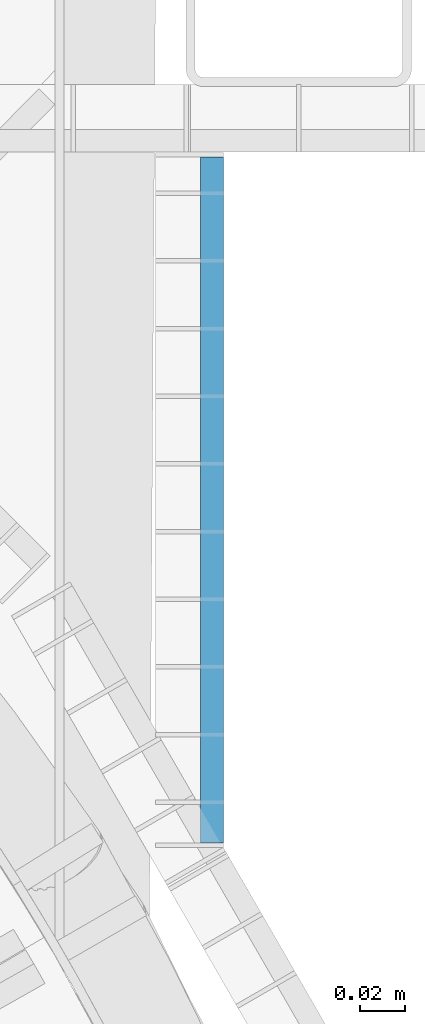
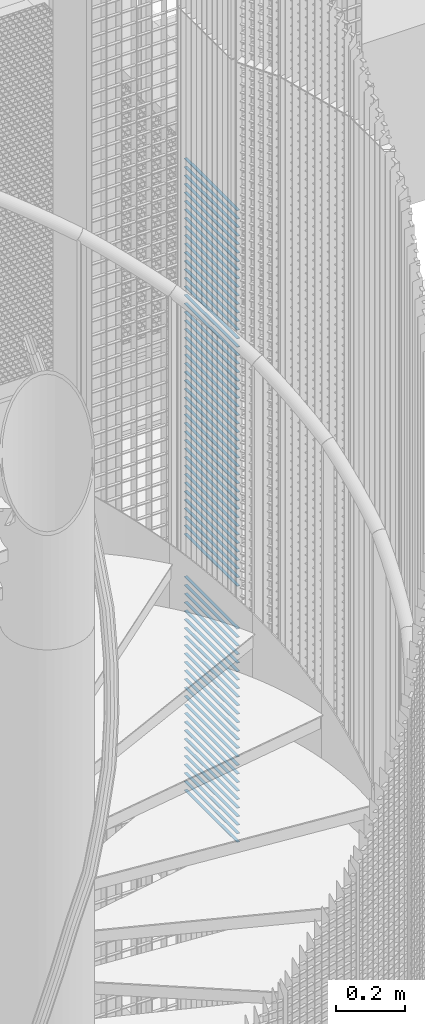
# One storey, part 279 of 1183: 71 beams, 1 element without a shape of its own.
"""IFC2X3 building model written with IfcOpenShell, lengths in millimetres."""

from ifc_helpers import new_model, si_unit, frame, origin_with_axes, origin_2d_with_axis, place, context, subcontext, project, spatial, rectangle, extrude, material, type_object, element, aggregate, save


model = new_model("IFC2X3")

# Units and contexts
model_context = context("Model", 3, precision=1e-05, world=origin_with_axes())
body_context = subcontext(model_context, "Body", "Model", "MODEL_VIEW")
ifc_project = project(units=[si_unit("LENGTHUNIT", "METRE", prefix="MILLI"), si_unit("AREAUNIT", "SQUARE_METRE"), si_unit("VOLUMEUNIT", "CUBIC_METRE"), si_unit("MASSUNIT", "GRAM", prefix="KILO"), si_unit("TIMEUNIT", "SECOND"), si_unit("PLANEANGLEUNIT", "RADIAN"), si_unit("SOLIDANGLEUNIT", "STERADIAN"), si_unit("THERMODYNAMICTEMPERATUREUNIT", "DEGREE_CELSIUS"), si_unit("LUMINOUSINTENSITYUNIT", "LUMEN")], contexts=[model_context])

# Site, building, storey
site_placement = place(None, origin_with_axes())
site = spatial("IfcSite", under=ifc_project, at=site_placement, Name="Undefined", CompositionType="ELEMENT")
building_placement = place(site_placement, origin_with_axes())
building = spatial("IfcBuilding", under=site, at=building_placement, Name="Undefined", CompositionType="ELEMENT")
storey_placement = place(building_placement, origin_with_axes())
storey = spatial("IfcBuildingStorey", under=building, at=storey_placement, Name="Undefined", CompositionType="ELEMENT", Elevation=0.0)

# Assembly, beams
assembly_placement = place(storey_placement, origin_with_axes())
assembly = element("IfcElementAssembly", 1, at=assembly_placement, inside=storey, Name="BORDURE", AssemblyPlace="NOTDEFINED", PredefinedType="NOTDEFINED")
ifc_material = material(Name="STEEL/S235JR")
beam_type = type_object("IfcBeamType", Name="PL2*10", PredefinedType="NOTDEFINED")
beam_1_placement = place(assembly_placement, frame((961.586915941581, 564.782669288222, 14460.0), z_axis=(1.0, 0.0, 0.0), x_axis=(0.0, 1.0, 0.0)))
beam_1 = element("IfcBeam", 2, at=beam_1_placement, type_object=beam_type, material=ifc_material, Name="ENTRETOISE", context=body_context, shape_type="SweptSolid", body=[
    extrude(rectangle(XDim=2.0, YDim=10.0, at=origin_2d_with_axis()), frame((303.999999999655, 0.0, 0.0), z_axis=(-1.0, 0.0, 0.0), x_axis=(0.0, -1.0, 0.0)), (0.0, 0.0, 1.0), 304.0),
])
beam_2_placement = place(assembly_placement, frame((961.586915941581, 564.782669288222, 14430.0), z_axis=(1.0, 0.0, 0.0), x_axis=(0.0, 1.0, 0.0)))
beam_2 = element("IfcBeam", 3, at=beam_2_placement, type_object=beam_type, material=ifc_material, Name="ENTRETOISE", context=body_context, shape_type="SweptSolid", body=[
    extrude(rectangle(XDim=2.0, YDim=10.0, at=origin_2d_with_axis()), frame((303.999999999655, 0.0, 0.0), z_axis=(-1.0, 0.0, 0.0), x_axis=(0.0, -1.0, 0.0)), (0.0, 0.0, 1.0), 304.0),
])
beam_3_placement = place(assembly_placement, frame((961.586915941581, 564.782669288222, 14400.0), z_axis=(1.0, 0.0, 0.0), x_axis=(0.0, 1.0, 0.0)))
beam_3 = element("IfcBeam", 4, at=beam_3_placement, type_object=beam_type, material=ifc_material, Name="ENTRETOISE", context=body_context, shape_type="SweptSolid", body=[
    extrude(rectangle(XDim=2.0, YDim=10.0, at=origin_2d_with_axis()), frame((303.999999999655, 0.0, 0.0), z_axis=(-1.0, 0.0, 0.0), x_axis=(0.0, -1.0, 0.0)), (0.0, 0.0, 1.0), 304.0),
])
beam_4_placement = place(assembly_placement, frame((961.586915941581, 564.782669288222, 14370.0), z_axis=(1.0, 0.0, 0.0), x_axis=(0.0, 1.0, 0.0)))
beam_4 = element("IfcBeam", 5, at=beam_4_placement, type_object=beam_type, material=ifc_material, Name="ENTRETOISE", context=body_context, shape_type="SweptSolid", body=[
    extrude(rectangle(XDim=2.0, YDim=10.0, at=origin_2d_with_axis()), frame((303.999999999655, 0.0, 0.0), z_axis=(-1.0, 0.0, 0.0), x_axis=(0.0, -1.0, 0.0)), (0.0, 0.0, 1.0), 304.0),
])
beam_5_placement = place(assembly_placement, frame((961.586915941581, 564.782669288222, 14340.0), z_axis=(1.0, 0.0, 0.0), x_axis=(0.0, 1.0, 0.0)))
beam_5 = element("IfcBeam", 6, at=beam_5_placement, type_object=beam_type, material=ifc_material, Name="ENTRETOISE", context=body_context, shape_type="SweptSolid", body=[
    extrude(rectangle(XDim=2.0, YDim=10.0, at=origin_2d_with_axis()), frame((303.999999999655, 0.0, 0.0), z_axis=(-1.0, 0.0, 0.0), x_axis=(0.0, -1.0, 0.0)), (0.0, 0.0, 1.0), 304.0),
])
beam_6_placement = place(assembly_placement, frame((961.586915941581, 564.782669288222, 14310.0), z_axis=(1.0, 0.0, 0.0), x_axis=(0.0, 1.0, 0.0)))
beam_6 = element("IfcBeam", 7, at=beam_6_placement, type_object=beam_type, material=ifc_material, Name="ENTRETOISE", context=body_context, shape_type="SweptSolid", body=[
    extrude(rectangle(XDim=2.0, YDim=10.0, at=origin_2d_with_axis()), frame((303.999999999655, 0.0, 0.0), z_axis=(-1.0, 0.0, 0.0), x_axis=(0.0, -1.0, 0.0)), (0.0, 0.0, 1.0), 304.0),
])
beam_7_placement = place(assembly_placement, frame((961.586915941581, 564.782669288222, 14280.0), z_axis=(1.0, 0.0, 0.0), x_axis=(0.0, 1.0, 0.0)))
beam_7 = element("IfcBeam", 8, at=beam_7_placement, type_object=beam_type, material=ifc_material, Name="ENTRETOISE", context=body_context, shape_type="SweptSolid", body=[
    extrude(rectangle(XDim=2.0, YDim=10.0, at=origin_2d_with_axis()), frame((303.999999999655, 0.0, 0.0), z_axis=(-1.0, 0.0, 0.0), x_axis=(0.0, -1.0, 0.0)), (0.0, 0.0, 1.0), 304.0),
])
beam_8_placement = place(assembly_placement, frame((961.586915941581, 564.782669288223, 14250.0), z_axis=(1.0, 0.0, 0.0), x_axis=(0.0, 1.0, 0.0)))
beam_8 = element("IfcBeam", 9, at=beam_8_placement, type_object=beam_type, material=ifc_material, Name="ENTRETOISE", context=body_context, shape_type="SweptSolid", body=[
    extrude(rectangle(XDim=2.0, YDim=10.0, at=origin_2d_with_axis()), frame((303.999999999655, 0.0, 0.0), z_axis=(-1.0, 0.0, 0.0), x_axis=(0.0, -1.0, 0.0)), (0.0, 0.0, 1.0), 304.0),
])
beam_9_placement = place(assembly_placement, frame((961.586915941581, 564.782669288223, 14220.0), z_axis=(1.0, 0.0, 0.0), x_axis=(0.0, 1.0, 0.0)))
beam_9 = element("IfcBeam", 10, at=beam_9_placement, type_object=beam_type, material=ifc_material, Name="ENTRETOISE", context=body_context, shape_type="SweptSolid", body=[
    extrude(rectangle(XDim=2.0, YDim=10.0, at=origin_2d_with_axis()), frame((303.999999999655, 0.0, 0.0), z_axis=(-1.0, 0.0, 0.0), x_axis=(0.0, -1.0, 0.0)), (0.0, 0.0, 1.0), 304.0),
])
beam_10_placement = place(assembly_placement, frame((961.586915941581, 564.782669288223, 14190.0), z_axis=(1.0, 0.0, 0.0), x_axis=(0.0, 1.0, 0.0)))
beam_10 = element("IfcBeam", 11, at=beam_10_placement, type_object=beam_type, material=ifc_material, Name="ENTRETOISE", context=body_context, shape_type="SweptSolid", body=[
    extrude(rectangle(XDim=2.0, YDim=10.0, at=origin_2d_with_axis()), frame((303.999999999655, 0.0, 0.0), z_axis=(-1.0, 0.0, 0.0), x_axis=(0.0, -1.0, 0.0)), (0.0, 0.0, 1.0), 304.0),
])
beam_11_placement = place(assembly_placement, frame((961.586915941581, 564.782669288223, 14160.0), z_axis=(1.0, 0.0, 0.0), x_axis=(0.0, 1.0, 0.0)))
beam_11 = element("IfcBeam", 12, at=beam_11_placement, type_object=beam_type, material=ifc_material, Name="ENTRETOISE", context=body_context, shape_type="SweptSolid", body=[
    extrude(rectangle(XDim=2.0, YDim=10.0, at=origin_2d_with_axis()), frame((303.999999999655, 0.0, 0.0), z_axis=(-1.0, 0.0, 0.0), x_axis=(0.0, -1.0, 0.0)), (0.0, 0.0, 1.0), 304.0),
])
beam_12_placement = place(assembly_placement, frame((961.586915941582, 564.782669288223, 14130.0), z_axis=(1.0, 0.0, 0.0), x_axis=(0.0, 1.0, 0.0)))
beam_12 = element("IfcBeam", 13, at=beam_12_placement, type_object=beam_type, material=ifc_material, Name="ENTRETOISE", context=body_context, shape_type="SweptSolid", body=[
    extrude(rectangle(XDim=2.0, YDim=10.0, at=origin_2d_with_axis()), frame((303.999999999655, 0.0, 0.0), z_axis=(-1.0, 0.0, 0.0), x_axis=(0.0, -1.0, 0.0)), (0.0, 0.0, 1.0), 304.0),
])
beam_13_placement = place(assembly_placement, frame((961.586915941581, 564.782669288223, 14100.0), z_axis=(1.0, 0.0, 0.0), x_axis=(0.0, 1.0, 0.0)))
beam_13 = element("IfcBeam", 14, at=beam_13_placement, type_object=beam_type, material=ifc_material, Name="ENTRETOISE", context=body_context, shape_type="SweptSolid", body=[
    extrude(rectangle(XDim=2.0, YDim=10.0, at=origin_2d_with_axis()), frame((303.999999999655, 0.0, 0.0), z_axis=(-1.0, 0.0, 0.0), x_axis=(0.0, -1.0, 0.0)), (0.0, 0.0, 1.0), 304.0),
])
beam_14_placement = place(assembly_placement, frame((961.586915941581, 564.782669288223, 14070.0), z_axis=(1.0, 0.0, 0.0), x_axis=(0.0, 1.0, 0.0)))
beam_14 = element("IfcBeam", 15, at=beam_14_placement, type_object=beam_type, material=ifc_material, Name="ENTRETOISE", context=body_context, shape_type="SweptSolid", body=[
    extrude(rectangle(XDim=2.0, YDim=10.0, at=origin_2d_with_axis()), frame((303.999999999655, 0.0, 0.0), z_axis=(-1.0, 0.0, 0.0), x_axis=(0.0, -1.0, 0.0)), (0.0, 0.0, 1.0), 304.0),
])
beam_15_placement = place(assembly_placement, frame((961.586915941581, 564.782669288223, 14040.0), z_axis=(1.0, 0.0, 0.0), x_axis=(0.0, 1.0, 0.0)))
beam_15 = element("IfcBeam", 16, at=beam_15_placement, type_object=beam_type, material=ifc_material, Name="ENTRETOISE", context=body_context, shape_type="SweptSolid", body=[
    extrude(rectangle(XDim=2.0, YDim=10.0, at=origin_2d_with_axis()), frame((303.999999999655, 0.0, 0.0), z_axis=(-1.0, 0.0, 0.0), x_axis=(0.0, -1.0, 0.0)), (0.0, 0.0, 1.0), 304.0),
])
beam_16_placement = place(assembly_placement, frame((961.586915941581, 564.782669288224, 14010.0), z_axis=(1.0, 0.0, 0.0), x_axis=(0.0, 1.0, 0.0)))
beam_16 = element("IfcBeam", 17, at=beam_16_placement, type_object=beam_type, material=ifc_material, Name="ENTRETOISE", context=body_context, shape_type="SweptSolid", body=[
    extrude(rectangle(XDim=2.0, YDim=10.0, at=origin_2d_with_axis()), frame((303.999999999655, 0.0, 0.0), z_axis=(-1.0, 0.0, 0.0), x_axis=(0.0, -1.0, 0.0)), (0.0, 0.0, 1.0), 304.0),
])
beam_17_placement = place(assembly_placement, frame((961.586915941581, 564.782669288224, 13980.0), z_axis=(1.0, 0.0, 0.0), x_axis=(0.0, 1.0, 0.0)))
beam_17 = element("IfcBeam", 18, at=beam_17_placement, type_object=beam_type, material=ifc_material, Name="ENTRETOISE", context=body_context, shape_type="SweptSolid", body=[
    extrude(rectangle(XDim=2.0, YDim=10.0, at=origin_2d_with_axis()), frame((303.999999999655, 0.0, 0.0), z_axis=(-1.0, 0.0, 0.0), x_axis=(0.0, -1.0, 0.0)), (0.0, 0.0, 1.0), 304.0),
])
beam_18_placement = place(assembly_placement, frame((961.586915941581, 564.782669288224, 13950.0), z_axis=(1.0, 0.0, 0.0), x_axis=(0.0, 1.0, 0.0)))
beam_18 = element("IfcBeam", 19, at=beam_18_placement, type_object=beam_type, material=ifc_material, Name="ENTRETOISE", context=body_context, shape_type="SweptSolid", body=[
    extrude(rectangle(XDim=2.0, YDim=10.0, at=origin_2d_with_axis()), frame((303.999999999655, 0.0, 0.0), z_axis=(-1.0, 0.0, 0.0), x_axis=(0.0, -1.0, 0.0)), (0.0, 0.0, 1.0), 304.0),
])
beam_19_placement = place(assembly_placement, frame((961.586915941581, 564.782669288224, 13920.0), z_axis=(1.0, 0.0, 0.0), x_axis=(0.0, 1.0, 0.0)))
beam_19 = element("IfcBeam", 20, at=beam_19_placement, type_object=beam_type, material=ifc_material, Name="ENTRETOISE", context=body_context, shape_type="SweptSolid", body=[
    extrude(rectangle(XDim=2.0, YDim=10.0, at=origin_2d_with_axis()), frame((303.999999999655, 0.0, 0.0), z_axis=(-1.0, 0.0, 0.0), x_axis=(0.0, -1.0, 0.0)), (0.0, 0.0, 1.0), 304.0),
])
beam_20_placement = place(assembly_placement, frame((961.586915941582, 564.782669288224, 13890.0), z_axis=(1.0, 0.0, 0.0), x_axis=(0.0, 1.0, 0.0)))
beam_20 = element("IfcBeam", 21, at=beam_20_placement, type_object=beam_type, material=ifc_material, Name="ENTRETOISE", context=body_context, shape_type="SweptSolid", body=[
    extrude(rectangle(XDim=2.0, YDim=10.0, at=origin_2d_with_axis()), frame((303.999999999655, 0.0, 0.0), z_axis=(-1.0, 0.0, 0.0), x_axis=(0.0, -1.0, 0.0)), (0.0, 0.0, 1.0), 304.0),
])
beam_21_placement = place(assembly_placement, frame((961.586915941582, 564.782669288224, 13860.0), z_axis=(1.0, 0.0, 0.0), x_axis=(0.0, 1.0, 0.0)))
beam_21 = element("IfcBeam", 22, at=beam_21_placement, type_object=beam_type, material=ifc_material, Name="ENTRETOISE", context=body_context, shape_type="SweptSolid", body=[
    extrude(rectangle(XDim=2.0, YDim=10.0, at=origin_2d_with_axis()), frame((303.999999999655, 0.0, 0.0), z_axis=(-1.0, 0.0, 0.0), x_axis=(0.0, -1.0, 0.0)), (0.0, 0.0, 1.0), 304.0),
])
beam_22_placement = place(assembly_placement, frame((961.586915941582, 564.782669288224, 13830.0), z_axis=(1.0, 0.0, 0.0), x_axis=(0.0, 1.0, 0.0)))
beam_22 = element("IfcBeam", 23, at=beam_22_placement, type_object=beam_type, material=ifc_material, Name="ENTRETOISE", context=body_context, shape_type="SweptSolid", body=[
    extrude(rectangle(XDim=2.0, YDim=10.0, at=origin_2d_with_axis()), frame((303.999999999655, 0.0, 0.0), z_axis=(-1.0, 0.0, 0.0), x_axis=(0.0, -1.0, 0.0)), (0.0, 0.0, 1.0), 304.0),
])
beam_23_placement = place(assembly_placement, frame((961.586915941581, 564.782669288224, 13800.0), z_axis=(1.0, 0.0, 0.0), x_axis=(0.0, 1.0, 0.0)))
beam_23 = element("IfcBeam", 24, at=beam_23_placement, type_object=beam_type, material=ifc_material, Name="ENTRETOISE", context=body_context, shape_type="SweptSolid", body=[
    extrude(rectangle(XDim=2.0, YDim=10.0, at=origin_2d_with_axis()), frame((303.999999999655, 0.0, 0.0), z_axis=(-1.0, 0.0, 0.0), x_axis=(0.0, -1.0, 0.0)), (0.0, 0.0, 1.0), 304.0),
])
beam_24_placement = place(assembly_placement, frame((961.586915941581, 564.782669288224, 13770.0), z_axis=(1.0, 0.0, 0.0), x_axis=(0.0, 1.0, 0.0)))
beam_24 = element("IfcBeam", 25, at=beam_24_placement, type_object=beam_type, material=ifc_material, Name="ENTRETOISE", context=body_context, shape_type="SweptSolid", body=[
    extrude(rectangle(XDim=2.0, YDim=10.0, at=origin_2d_with_axis()), frame((303.999999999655, 0.0, 0.0), z_axis=(-1.0, 0.0, 0.0), x_axis=(0.0, -1.0, 0.0)), (0.0, 0.0, 1.0), 304.0),
])
beam_25_placement = place(assembly_placement, frame((961.586915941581, 564.782669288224, 13740.0), z_axis=(1.0, 0.0, 0.0), x_axis=(0.0, 1.0, 0.0)))
beam_25 = element("IfcBeam", 26, at=beam_25_placement, type_object=beam_type, material=ifc_material, Name="ENTRETOISE", context=body_context, shape_type="SweptSolid", body=[
    extrude(rectangle(XDim=2.0, YDim=10.0, at=origin_2d_with_axis()), frame((303.999999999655, 0.0, 0.0), z_axis=(-1.0, 0.0, 0.0), x_axis=(0.0, -1.0, 0.0)), (0.0, 0.0, 1.0), 304.0),
])
beam_26_placement = place(assembly_placement, frame((961.586915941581, 564.782669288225, 13710.0), z_axis=(1.0, 0.0, 0.0), x_axis=(0.0, 1.0, 0.0)))
beam_26 = element("IfcBeam", 27, at=beam_26_placement, type_object=beam_type, material=ifc_material, Name="ENTRETOISE", context=body_context, shape_type="SweptSolid", body=[
    extrude(rectangle(XDim=2.0, YDim=10.0, at=origin_2d_with_axis()), frame((303.999999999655, 0.0, 0.0), z_axis=(-1.0, 0.0, 0.0), x_axis=(0.0, -1.0, 0.0)), (0.0, 0.0, 1.0), 304.0),
])
beam_27_placement = place(assembly_placement, frame((961.586915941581, 564.782669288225, 13680.0), z_axis=(1.0, 0.0, 0.0), x_axis=(0.0, 1.0, 0.0)))
beam_27 = element("IfcBeam", 28, at=beam_27_placement, type_object=beam_type, material=ifc_material, Name="ENTRETOISE", context=body_context, shape_type="SweptSolid", body=[
    extrude(rectangle(XDim=2.0, YDim=10.0, at=origin_2d_with_axis()), frame((303.999999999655, 0.0, 0.0), z_axis=(-1.0, 0.0, 0.0), x_axis=(0.0, -1.0, 0.0)), (0.0, 0.0, 1.0), 304.0),
])
beam_28_placement = place(assembly_placement, frame((961.586915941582, 564.782669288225, 13650.0), z_axis=(1.0, 0.0, 0.0), x_axis=(0.0, 1.0, 0.0)))
beam_28 = element("IfcBeam", 29, at=beam_28_placement, type_object=beam_type, material=ifc_material, Name="ENTRETOISE", context=body_context, shape_type="SweptSolid", body=[
    extrude(rectangle(XDim=2.0, YDim=10.0, at=origin_2d_with_axis()), frame((303.999999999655, 0.0, 0.0), z_axis=(-1.0, 0.0, 0.0), x_axis=(0.0, -1.0, 0.0)), (0.0, 0.0, 1.0), 304.0),
])
beam_29_placement = place(assembly_placement, frame((961.586915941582, 564.782669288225, 13620.0), z_axis=(1.0, 0.0, 0.0), x_axis=(0.0, 1.0, 0.0)))
beam_29 = element("IfcBeam", 30, at=beam_29_placement, type_object=beam_type, material=ifc_material, Name="ENTRETOISE", context=body_context, shape_type="SweptSolid", body=[
    extrude(rectangle(XDim=2.0, YDim=10.0, at=origin_2d_with_axis()), frame((303.999999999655, 0.0, 0.0), z_axis=(-1.0, 0.0, 0.0), x_axis=(0.0, -1.0, 0.0)), (0.0, 0.0, 1.0), 304.0),
])
beam_30_placement = place(assembly_placement, frame((961.586915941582, 564.782669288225, 13590.0), z_axis=(1.0, 0.0, 0.0), x_axis=(0.0, 1.0, 0.0)))
beam_30 = element("IfcBeam", 31, at=beam_30_placement, type_object=beam_type, material=ifc_material, Name="ENTRETOISE", context=body_context, shape_type="SweptSolid", body=[
    extrude(rectangle(XDim=2.0, YDim=10.0, at=origin_2d_with_axis()), frame((303.999999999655, 0.0, 0.0), z_axis=(-1.0, 0.0, 0.0), x_axis=(0.0, -1.0, 0.0)), (0.0, 0.0, 1.0), 304.0),
])
beam_31_placement = place(assembly_placement, frame((961.586915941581, 564.782669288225, 13560.0), z_axis=(1.0, 0.0, 0.0), x_axis=(0.0, 1.0, 0.0)))
beam_31 = element("IfcBeam", 32, at=beam_31_placement, type_object=beam_type, material=ifc_material, Name="ENTRETOISE", context=body_context, shape_type="SweptSolid", body=[
    extrude(rectangle(XDim=2.0, YDim=10.0, at=origin_2d_with_axis()), frame((303.999999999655, 0.0, 0.0), z_axis=(-1.0, 0.0, 0.0), x_axis=(0.0, -1.0, 0.0)), (0.0, 0.0, 1.0), 304.0),
])
beam_32_placement = place(assembly_placement, frame((961.586915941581, 564.782669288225, 13530.0), z_axis=(1.0, 0.0, 0.0), x_axis=(0.0, 1.0, 0.0)))
beam_32 = element("IfcBeam", 33, at=beam_32_placement, type_object=beam_type, material=ifc_material, Name="ENTRETOISE", context=body_context, shape_type="SweptSolid", body=[
    extrude(rectangle(XDim=2.0, YDim=10.0, at=origin_2d_with_axis()), frame((303.999999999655, 0.0, 0.0), z_axis=(-1.0, 0.0, 0.0), x_axis=(0.0, -1.0, 0.0)), (0.0, 0.0, 1.0), 304.0),
])
beam_33_placement = place(assembly_placement, frame((961.586915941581, 564.782669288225, 13500.0), z_axis=(1.0, 0.0, 0.0), x_axis=(0.0, 1.0, 0.0)))
beam_33 = element("IfcBeam", 34, at=beam_33_placement, type_object=beam_type, material=ifc_material, Name="ENTRETOISE", context=body_context, shape_type="SweptSolid", body=[
    extrude(rectangle(XDim=2.0, YDim=10.0, at=origin_2d_with_axis()), frame((303.999999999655, 0.0, 0.0), z_axis=(-1.0, 0.0, 0.0), x_axis=(0.0, -1.0, 0.0)), (0.0, 0.0, 1.0), 304.0),
])
beam_34_placement = place(assembly_placement, frame((961.586915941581, 564.782669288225, 13470.0), z_axis=(1.0, 0.0, 0.0), x_axis=(0.0, 1.0, 0.0)))
beam_34 = element("IfcBeam", 35, at=beam_34_placement, type_object=beam_type, material=ifc_material, Name="ENTRETOISE", context=body_context, shape_type="SweptSolid", body=[
    extrude(rectangle(XDim=2.0, YDim=10.0, at=origin_2d_with_axis()), frame((303.999999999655, 0.0, 0.0), z_axis=(-1.0, 0.0, 0.0), x_axis=(0.0, -1.0, 0.0)), (0.0, 0.0, 1.0), 304.0),
])
beam_35_placement = place(assembly_placement, frame((961.586915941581, 564.782669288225, 13440.0), z_axis=(1.0, 0.0, 0.0), x_axis=(0.0, 1.0, 0.0)))
beam_35 = element("IfcBeam", 36, at=beam_35_placement, type_object=beam_type, material=ifc_material, Name="ENTRETOISE", context=body_context, shape_type="SweptSolid", body=[
    extrude(rectangle(XDim=2.0, YDim=10.0, at=origin_2d_with_axis()), frame((303.999999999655, 0.0, 0.0), z_axis=(-1.0, 0.0, 0.0), x_axis=(0.0, -1.0, 0.0)), (0.0, 0.0, 1.0), 304.0),
])
beam_36_placement = place(assembly_placement, frame((961.586915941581, 564.782669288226, 13410.0), z_axis=(1.0, 0.0, 0.0), x_axis=(0.0, 1.0, 0.0)))
beam_36 = element("IfcBeam", 37, at=beam_36_placement, type_object=beam_type, material=ifc_material, Name="ENTRETOISE", context=body_context, shape_type="SweptSolid", body=[
    extrude(rectangle(XDim=2.0, YDim=10.0, at=origin_2d_with_axis()), frame((303.999999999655, 0.0, 0.0), z_axis=(-1.0, 0.0, 0.0), x_axis=(0.0, -1.0, 0.0)), (0.0, 0.0, 1.0), 304.0),
])
beam_37_placement = place(assembly_placement, frame((961.586915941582, 564.782669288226, 13380.0), z_axis=(1.0, 0.0, 0.0), x_axis=(0.0, 1.0, 0.0)))
beam_37 = element("IfcBeam", 38, at=beam_37_placement, type_object=beam_type, material=ifc_material, Name="ENTRETOISE", context=body_context, shape_type="SweptSolid", body=[
    extrude(rectangle(XDim=2.0, YDim=10.0, at=origin_2d_with_axis()), frame((303.999999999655, 0.0, 0.0), z_axis=(-1.0, 0.0, 0.0), x_axis=(0.0, -1.0, 0.0)), (0.0, 0.0, 1.0), 304.0),
])
beam_38_placement = place(assembly_placement, frame((961.586915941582, 564.782669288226, 13350.0), z_axis=(1.0, 0.0, 0.0), x_axis=(0.0, 1.0, 0.0)))
beam_38 = element("IfcBeam", 39, at=beam_38_placement, type_object=beam_type, material=ifc_material, Name="ENTRETOISE", context=body_context, shape_type="SweptSolid", body=[
    extrude(rectangle(XDim=2.0, YDim=10.0, at=origin_2d_with_axis()), frame((303.999999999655, 0.0, 0.0), z_axis=(-1.0, 0.0, 0.0), x_axis=(0.0, -1.0, 0.0)), (0.0, 0.0, 1.0), 304.0),
])
beam_39_placement = place(assembly_placement, frame((961.586915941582, 564.782669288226, 13320.0), z_axis=(1.0, 0.0, 0.0), x_axis=(0.0, 1.0, 0.0)))
beam_39 = element("IfcBeam", 40, at=beam_39_placement, type_object=beam_type, material=ifc_material, Name="ENTRETOISE", context=body_context, shape_type="SweptSolid", body=[
    extrude(rectangle(XDim=2.0, YDim=10.0, at=origin_2d_with_axis()), frame((303.999999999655, 0.0, 0.0), z_axis=(-1.0, 0.0, 0.0), x_axis=(0.0, -1.0, 0.0)), (0.0, 0.0, 1.0), 304.0),
])
beam_40_placement = place(assembly_placement, frame((961.586915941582, 564.782669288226, 13290.0), z_axis=(1.0, 0.0, 0.0), x_axis=(0.0, 1.0, 0.0)))
beam_40 = element("IfcBeam", 41, at=beam_40_placement, type_object=beam_type, material=ifc_material, Name="ENTRETOISE", context=body_context, shape_type="SweptSolid", body=[
    extrude(rectangle(XDim=2.0, YDim=10.0, at=origin_2d_with_axis()), frame((303.999999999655, 0.0, 0.0), z_axis=(-1.0, 0.0, 0.0), x_axis=(0.0, -1.0, 0.0)), (0.0, 0.0, 1.0), 304.0),
])
beam_41_placement = place(assembly_placement, frame((961.586915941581, 564.782669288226, 13260.0), z_axis=(1.0, 0.0, 0.0), x_axis=(0.0, 1.0, 0.0)))
beam_41 = element("IfcBeam", 42, at=beam_41_placement, type_object=beam_type, material=ifc_material, Name="ENTRETOISE", context=body_context, shape_type="SweptSolid", body=[
    extrude(rectangle(XDim=2.0, YDim=10.0, at=origin_2d_with_axis()), frame((303.999999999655, 0.0, 0.0), z_axis=(-1.0, 0.0, 0.0), x_axis=(0.0, -1.0, 0.0)), (0.0, 0.0, 1.0), 304.0),
])
beam_42_placement = place(assembly_placement, frame((961.586915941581, 564.782669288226, 13230.0), z_axis=(1.0, 0.0, 0.0), x_axis=(0.0, 1.0, 0.0)))
beam_42 = element("IfcBeam", 43, at=beam_42_placement, type_object=beam_type, material=ifc_material, Name="ENTRETOISE", context=body_context, shape_type="SweptSolid", body=[
    extrude(rectangle(XDim=2.0, YDim=10.0, at=origin_2d_with_axis()), frame((303.999999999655, 0.0, 0.0), z_axis=(-1.0, 0.0, 0.0), x_axis=(0.0, -1.0, 0.0)), (0.0, 0.0, 1.0), 304.0),
])
beam_43_placement = place(assembly_placement, frame((961.586915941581, 564.782669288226, 13200.0), z_axis=(1.0, 0.0, 0.0), x_axis=(0.0, 1.0, 0.0)))
beam_43 = element("IfcBeam", 44, at=beam_43_placement, type_object=beam_type, material=ifc_material, Name="ENTRETOISE", context=body_context, shape_type="SweptSolid", body=[
    extrude(rectangle(XDim=2.0, YDim=10.0, at=origin_2d_with_axis()), frame((303.999999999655, 0.0, 0.0), z_axis=(-1.0, 0.0, 0.0), x_axis=(0.0, -1.0, 0.0)), (0.0, 0.0, 1.0), 304.0),
])
beam_44_placement = place(assembly_placement, frame((961.586915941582, 564.782669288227, 13170.0), z_axis=(1.0, 0.0, 0.0), x_axis=(0.0, 1.0, 0.0)))
beam_44 = element("IfcBeam", 45, at=beam_44_placement, type_object=beam_type, material=ifc_material, Name="ENTRETOISE", context=body_context, shape_type="SweptSolid", body=[
    extrude(rectangle(XDim=2.0, YDim=10.0, at=origin_2d_with_axis()), frame((303.999999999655, 0.0, 0.0), z_axis=(-1.0, 0.0, 0.0), x_axis=(0.0, -1.0, 0.0)), (0.0, 0.0, 1.0), 304.0),
])
beam_45_placement = place(assembly_placement, frame((961.586915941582, 564.782669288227, 13140.0), z_axis=(1.0, 0.0, 0.0), x_axis=(0.0, 1.0, 0.0)))
beam_45 = element("IfcBeam", 46, at=beam_45_placement, type_object=beam_type, material=ifc_material, Name="ENTRETOISE", context=body_context, shape_type="SweptSolid", body=[
    extrude(rectangle(XDim=2.0, YDim=10.0, at=origin_2d_with_axis()), frame((303.999999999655, 0.0, 0.0), z_axis=(-1.0, 0.0, 0.0), x_axis=(0.0, -1.0, 0.0)), (0.0, 0.0, 1.0), 304.0),
])
beam_46_placement = place(assembly_placement, frame((961.586915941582, 564.782669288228, 12720.0), z_axis=(1.0, 0.0, 0.0), x_axis=(0.0, 1.0, 0.0)))
beam_46 = element("IfcBeam", 47, at=beam_46_placement, type_object=beam_type, material=ifc_material, Name="ENTRETOISE", context=body_context, shape_type="SweptSolid", body=[
    extrude(rectangle(XDim=2.0, YDim=10.0, at=origin_2d_with_axis()), frame((303.999999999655, 0.0, 0.0), z_axis=(-1.0, 0.0, 0.0), x_axis=(0.0, -1.0, 0.0)), (0.0, 0.0, 1.0), 304.0),
])
beam_47_placement = place(assembly_placement, frame((961.586915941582, 564.782669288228, 12690.0), z_axis=(1.0, 0.0, 0.0), x_axis=(0.0, 1.0, 0.0)))
beam_47 = element("IfcBeam", 48, at=beam_47_placement, type_object=beam_type, material=ifc_material, Name="ENTRETOISE", context=body_context, shape_type="SweptSolid", body=[
    extrude(rectangle(XDim=2.0, YDim=10.0, at=origin_2d_with_axis()), frame((303.999999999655, 0.0, 0.0), z_axis=(-1.0, 0.0, 0.0), x_axis=(0.0, -1.0, 0.0)), (0.0, 0.0, 1.0), 304.0),
])
beam_48_placement = place(assembly_placement, frame((961.586915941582, 564.782669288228, 12750.0), z_axis=(1.0, 0.0, 0.0), x_axis=(0.0, 1.0, 0.0)))
beam_48 = element("IfcBeam", 49, at=beam_48_placement, type_object=beam_type, material=ifc_material, Name="ENTRETOISE", context=body_context, shape_type="SweptSolid", body=[
    extrude(rectangle(XDim=2.0, YDim=10.0, at=origin_2d_with_axis()), frame((303.999999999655, 0.0, 0.0), z_axis=(-1.0, 0.0, 0.0), x_axis=(0.0, -1.0, 0.0)), (0.0, 0.0, 1.0), 304.0),
])
beam_49_placement = place(assembly_placement, frame((961.586915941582, 564.782669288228, 12660.0), z_axis=(1.0, 0.0, 0.0), x_axis=(0.0, 1.0, 0.0)))
beam_49 = element("IfcBeam", 50, at=beam_49_placement, type_object=beam_type, material=ifc_material, Name="ENTRETOISE", context=body_context, shape_type="SweptSolid", body=[
    extrude(rectangle(XDim=2.0, YDim=10.0, at=origin_2d_with_axis()), frame((303.999999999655, 0.0, 0.0), z_axis=(-1.0, 0.0, 0.0), x_axis=(0.0, -1.0, 0.0)), (0.0, 0.0, 1.0), 304.0),
])
beam_50_placement = place(assembly_placement, frame((961.586915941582, 564.782669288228, 12630.0), z_axis=(1.0, 0.0, 0.0), x_axis=(0.0, 1.0, 0.0)))
beam_50 = element("IfcBeam", 51, at=beam_50_placement, type_object=beam_type, material=ifc_material, Name="ENTRETOISE", context=body_context, shape_type="SweptSolid", body=[
    extrude(rectangle(XDim=2.0, YDim=10.0, at=origin_2d_with_axis()), frame((303.999999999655, 0.0, 0.0), z_axis=(-1.0, 0.0, 0.0), x_axis=(0.0, -1.0, 0.0)), (0.0, 0.0, 1.0), 304.0),
])
beam_51_placement = place(assembly_placement, frame((961.586915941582, 564.782669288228, 12780.0), z_axis=(1.0, 0.0, 0.0), x_axis=(0.0, 1.0, 0.0)))
beam_51 = element("IfcBeam", 52, at=beam_51_placement, type_object=beam_type, material=ifc_material, Name="ENTRETOISE", context=body_context, shape_type="SweptSolid", body=[
    extrude(rectangle(XDim=2.0, YDim=10.0, at=origin_2d_with_axis()), frame((303.999999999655, 0.0, 0.0), z_axis=(-1.0, 0.0, 0.0), x_axis=(0.0, -1.0, 0.0)), (0.0, 0.0, 1.0), 304.0),
])
beam_52_placement = place(assembly_placement, frame((961.586915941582, 564.782669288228, 12600.0), z_axis=(1.0, 0.0, 0.0), x_axis=(0.0, 1.0, 0.0)))
beam_52 = element("IfcBeam", 53, at=beam_52_placement, type_object=beam_type, material=ifc_material, Name="ENTRETOISE", context=body_context, shape_type="SweptSolid", body=[
    extrude(rectangle(XDim=2.0, YDim=10.0, at=origin_2d_with_axis()), frame((303.999999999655, 0.0, 0.0), z_axis=(-1.0, 0.0, 0.0), x_axis=(0.0, -1.0, 0.0)), (0.0, 0.0, 1.0), 304.0),
])
beam_53_placement = place(assembly_placement, frame((961.586915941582, 564.782669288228, 12810.0), z_axis=(1.0, 0.0, 0.0), x_axis=(0.0, 1.0, 0.0)))
beam_53 = element("IfcBeam", 54, at=beam_53_placement, type_object=beam_type, material=ifc_material, Name="ENTRETOISE", context=body_context, shape_type="SweptSolid", body=[
    extrude(rectangle(XDim=2.0, YDim=10.0, at=origin_2d_with_axis()), frame((303.999999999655, 0.0, 0.0), z_axis=(-1.0, 0.0, 0.0), x_axis=(0.0, -1.0, 0.0)), (0.0, 0.0, 1.0), 304.0),
])
beam_54_placement = place(assembly_placement, frame((961.586915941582, 564.782669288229, 12570.0), z_axis=(1.0, 0.0, 0.0), x_axis=(0.0, 1.0, 0.0)))
beam_54 = element("IfcBeam", 55, at=beam_54_placement, type_object=beam_type, material=ifc_material, Name="ENTRETOISE", context=body_context, shape_type="SweptSolid", body=[
    extrude(rectangle(XDim=2.0, YDim=10.0, at=origin_2d_with_axis()), frame((303.999999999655, 0.0, 0.0), z_axis=(-1.0, 0.0, 0.0), x_axis=(0.0, -1.0, 0.0)), (0.0, 0.0, 1.0), 304.0),
])
beam_55_placement = place(assembly_placement, frame((961.586915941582, 564.782669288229, 12540.0), z_axis=(1.0, 0.0, 0.0), x_axis=(0.0, 1.0, 0.0)))
beam_55 = element("IfcBeam", 56, at=beam_55_placement, type_object=beam_type, material=ifc_material, Name="ENTRETOISE", context=body_context, shape_type="SweptSolid", body=[
    extrude(rectangle(XDim=2.0, YDim=10.0, at=origin_2d_with_axis()), frame((303.999999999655, 0.0, 0.0), z_axis=(-1.0, 0.0, 0.0), x_axis=(0.0, -1.0, 0.0)), (0.0, 0.0, 1.0), 304.0),
])
beam_56_placement = place(assembly_placement, frame((961.586915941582, 564.782669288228, 12840.0), z_axis=(1.0, 0.0, 0.0), x_axis=(0.0, 1.0, 0.0)))
beam_56 = element("IfcBeam", 57, at=beam_56_placement, type_object=beam_type, material=ifc_material, Name="ENTRETOISE", context=body_context, shape_type="SweptSolid", body=[
    extrude(rectangle(XDim=2.0, YDim=10.0, at=origin_2d_with_axis()), frame((303.999999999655, 0.0, 0.0), z_axis=(-1.0, 0.0, 0.0), x_axis=(0.0, -1.0, 0.0)), (0.0, 0.0, 1.0), 304.0),
])
beam_57_placement = place(assembly_placement, frame((961.586915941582, 564.782669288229, 12510.0), z_axis=(1.0, 0.0, 0.0), x_axis=(0.0, 1.0, 0.0)))
beam_57 = element("IfcBeam", 58, at=beam_57_placement, type_object=beam_type, material=ifc_material, Name="ENTRETOISE", context=body_context, shape_type="SweptSolid", body=[
    extrude(rectangle(XDim=2.0, YDim=10.0, at=origin_2d_with_axis()), frame((303.999999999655, 0.0, 0.0), z_axis=(-1.0, 0.0, 0.0), x_axis=(0.0, -1.0, 0.0)), (0.0, 0.0, 1.0), 304.0),
])
beam_58_placement = place(assembly_placement, frame((961.586915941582, 564.782669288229, 12480.0), z_axis=(1.0, 0.0, 0.0), x_axis=(0.0, 1.0, 0.0)))
beam_58 = element("IfcBeam", 59, at=beam_58_placement, type_object=beam_type, material=ifc_material, Name="ENTRETOISE", context=body_context, shape_type="SweptSolid", body=[
    extrude(rectangle(XDim=2.0, YDim=10.0, at=origin_2d_with_axis()), frame((303.999999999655, 0.0, 0.0), z_axis=(-1.0, 0.0, 0.0), x_axis=(0.0, -1.0, 0.0)), (0.0, 0.0, 1.0), 304.0),
])
beam_59_placement = place(assembly_placement, frame((961.586915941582, 564.782669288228, 12870.0), z_axis=(1.0, 0.0, 0.0), x_axis=(0.0, 1.0, 0.0)))
beam_59 = element("IfcBeam", 60, at=beam_59_placement, type_object=beam_type, material=ifc_material, Name="ENTRETOISE", context=body_context, shape_type="SweptSolid", body=[
    extrude(rectangle(XDim=2.0, YDim=10.0, at=origin_2d_with_axis()), frame((303.999999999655, 0.0, 0.0), z_axis=(-1.0, 0.0, 0.0), x_axis=(0.0, -1.0, 0.0)), (0.0, 0.0, 1.0), 304.0),
])
beam_60_placement = place(assembly_placement, frame((961.586915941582, 564.782669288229, 12450.0), z_axis=(1.0, 0.0, 0.0), x_axis=(0.0, 1.0, 0.0)))
beam_60 = element("IfcBeam", 61, at=beam_60_placement, type_object=beam_type, material=ifc_material, Name="ENTRETOISE", context=body_context, shape_type="SweptSolid", body=[
    extrude(rectangle(XDim=2.0, YDim=10.0, at=origin_2d_with_axis()), frame((303.999999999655, 0.0, 0.0), z_axis=(-1.0, 0.0, 0.0), x_axis=(0.0, -1.0, 0.0)), (0.0, 0.0, 1.0), 304.0),
])
beam_61_placement = place(assembly_placement, frame((961.586915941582, 564.782669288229, 12420.0), z_axis=(1.0, 0.0, 0.0), x_axis=(0.0, 1.0, 0.0)))
beam_61 = element("IfcBeam", 62, at=beam_61_placement, type_object=beam_type, material=ifc_material, Name="ENTRETOISE", context=body_context, shape_type="SweptSolid", body=[
    extrude(rectangle(XDim=2.0, YDim=10.0, at=origin_2d_with_axis()), frame((303.999999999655, 0.0, 0.0), z_axis=(-1.0, 0.0, 0.0), x_axis=(0.0, -1.0, 0.0)), (0.0, 0.0, 1.0), 304.0),
])
beam_62_placement = place(assembly_placement, frame((961.586915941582, 564.782669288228, 12900.0), z_axis=(1.0, 0.0, 0.0), x_axis=(0.0, 1.0, 0.0)))
beam_62 = element("IfcBeam", 63, at=beam_62_placement, type_object=beam_type, material=ifc_material, Name="ENTRETOISE", context=body_context, shape_type="SweptSolid", body=[
    extrude(rectangle(XDim=2.0, YDim=10.0, at=origin_2d_with_axis()), frame((303.999999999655, 0.0, 0.0), z_axis=(-1.0, 0.0, 0.0), x_axis=(0.0, -1.0, 0.0)), (0.0, 0.0, 1.0), 304.0),
])
beam_63_placement = place(assembly_placement, frame((961.586915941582, 564.782669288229, 12390.0), z_axis=(1.0, 0.0, 0.0), x_axis=(0.0, 1.0, 0.0)))
beam_63 = element("IfcBeam", 64, at=beam_63_placement, type_object=beam_type, material=ifc_material, Name="ENTRETOISE", context=body_context, shape_type="SweptSolid", body=[
    extrude(rectangle(XDim=2.0, YDim=10.0, at=origin_2d_with_axis()), frame((303.999999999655, 0.0, 0.0), z_axis=(-1.0, 0.0, 0.0), x_axis=(0.0, -1.0, 0.0)), (0.0, 0.0, 1.0), 304.0),
])
beam_64_placement = place(assembly_placement, frame((961.586915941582, 564.782669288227, 12930.0), z_axis=(1.0, 0.0, 0.0), x_axis=(0.0, 1.0, 0.0)))
beam_64 = element("IfcBeam", 65, at=beam_64_placement, type_object=beam_type, material=ifc_material, Name="ENTRETOISE", context=body_context, shape_type="SweptSolid", body=[
    extrude(rectangle(XDim=2.0, YDim=10.0, at=origin_2d_with_axis()), frame((303.999999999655, 0.0, 0.0), z_axis=(-1.0, 0.0, 0.0), x_axis=(0.0, -1.0, 0.0)), (0.0, 0.0, 1.0), 304.0),
])
beam_65_placement = place(assembly_placement, frame((961.586915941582, 564.782669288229, 12360.0), z_axis=(1.0, 0.0, 0.0), x_axis=(0.0, 1.0, 0.0)))
beam_65 = element("IfcBeam", 66, at=beam_65_placement, type_object=beam_type, material=ifc_material, Name="ENTRETOISE", context=body_context, shape_type="SweptSolid", body=[
    extrude(rectangle(XDim=2.0, YDim=10.0, at=origin_2d_with_axis()), frame((303.999999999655, 0.0, 0.0), z_axis=(-1.0, 0.0, 0.0), x_axis=(0.0, -1.0, 0.0)), (0.0, 0.0, 1.0), 304.0),
])
beam_66_placement = place(assembly_placement, frame((961.586915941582, 564.782669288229, 12330.0), z_axis=(1.0, 0.0, 0.0), x_axis=(0.0, 1.0, 0.0)))
beam_66 = element("IfcBeam", 67, at=beam_66_placement, type_object=beam_type, material=ifc_material, Name="ENTRETOISE", context=body_context, shape_type="SweptSolid", body=[
    extrude(rectangle(XDim=2.0, YDim=10.0, at=origin_2d_with_axis()), frame((303.999999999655, 0.0, 0.0), z_axis=(-1.0, 0.0, 0.0), x_axis=(0.0, -1.0, 0.0)), (0.0, 0.0, 1.0), 304.0),
])
beam_67_placement = place(assembly_placement, frame((961.586915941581, 564.782669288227, 12960.0), z_axis=(1.0, 0.0, 0.0), x_axis=(0.0, 1.0, 0.0)))
beam_67 = element("IfcBeam", 68, at=beam_67_placement, type_object=beam_type, material=ifc_material, Name="ENTRETOISE", context=body_context, shape_type="SweptSolid", body=[
    extrude(rectangle(XDim=2.0, YDim=10.0, at=origin_2d_with_axis()), frame((303.999999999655, 0.0, 0.0), z_axis=(-1.0, 0.0, 0.0), x_axis=(0.0, -1.0, 0.0)), (0.0, 0.0, 1.0), 304.0),
])
beam_68_placement = place(assembly_placement, frame((961.586915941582, 564.782669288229, 12300.0), z_axis=(1.0, 0.0, 0.0), x_axis=(0.0, 1.0, 0.0)))
beam_68 = element("IfcBeam", 69, at=beam_68_placement, type_object=beam_type, material=ifc_material, Name="ENTRETOISE", context=body_context, shape_type="SweptSolid", body=[
    extrude(rectangle(XDim=2.0, YDim=10.0, at=origin_2d_with_axis()), frame((303.999999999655, 0.0, 0.0), z_axis=(-1.0, 0.0, 0.0), x_axis=(0.0, -1.0, 0.0)), (0.0, 0.0, 1.0), 304.0),
])
beam_69_placement = place(assembly_placement, frame((961.586915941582, 564.78266928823, 12270.0), z_axis=(1.0, 0.0, 0.0), x_axis=(0.0, 1.0, 0.0)))
beam_69 = element("IfcBeam", 70, at=beam_69_placement, type_object=beam_type, material=ifc_material, Name="ENTRETOISE", context=body_context, shape_type="SweptSolid", body=[
    extrude(rectangle(XDim=2.0, YDim=10.0, at=origin_2d_with_axis()), frame((303.999999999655, 0.0, 0.0), z_axis=(-1.0, 0.0, 0.0), x_axis=(0.0, -1.0, 0.0)), (0.0, 0.0, 1.0), 304.0),
])
beam_70_placement = place(assembly_placement, frame((961.586915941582, 564.782669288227, 12990.0), z_axis=(1.0, 0.0, 0.0), x_axis=(0.0, 1.0, 0.0)))
beam_70 = element("IfcBeam", 71, at=beam_70_placement, type_object=beam_type, material=ifc_material, Name="ENTRETOISE", context=body_context, shape_type="SweptSolid", body=[
    extrude(rectangle(XDim=2.0, YDim=10.0, at=origin_2d_with_axis()), frame((303.999999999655, 0.0, 0.0), z_axis=(-1.0, 0.0, 0.0), x_axis=(0.0, -1.0, 0.0)), (0.0, 0.0, 1.0), 304.0),
])
beam_71_placement = place(assembly_placement, frame((961.586915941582, 564.78266928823, 12240.0), z_axis=(1.0, 0.0, 0.0), x_axis=(0.0, 1.0, 0.0)))
beam_71 = element("IfcBeam", 72, at=beam_71_placement, type_object=beam_type, material=ifc_material, Name="ENTRETOISE", context=body_context, shape_type="SweptSolid", body=[
    extrude(rectangle(XDim=2.0, YDim=10.0, at=origin_2d_with_axis()), frame((303.999999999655, 0.0, 0.0), z_axis=(-1.0, 0.0, 0.0), x_axis=(0.0, -1.0, 0.0)), (0.0, 0.0, 1.0), 304.0),
])
aggregate(assembly, [beam_1, beam_2, beam_3, beam_4, beam_5, beam_6, beam_7, beam_8, beam_9, beam_10, beam_11, beam_12, beam_13, beam_14, beam_15, beam_16, beam_17, beam_18, beam_19, beam_20, beam_21, beam_22, beam_23, beam_24, beam_25, beam_26, beam_27, beam_28, beam_29, beam_30, beam_31, beam_32, beam_33, beam_34, beam_35, beam_36, beam_37, beam_38, beam_39, beam_40, beam_41, beam_42, beam_43, beam_44, beam_45, beam_46, beam_47, beam_48, beam_49, beam_50, beam_51, beam_52, beam_53, beam_54, beam_55, beam_56, beam_57, beam_58, beam_59, beam_60, beam_61, beam_62, beam_63, beam_64, beam_65, beam_66, beam_67, beam_68, beam_69, beam_70, beam_71])

save(model, "model.ifc")
